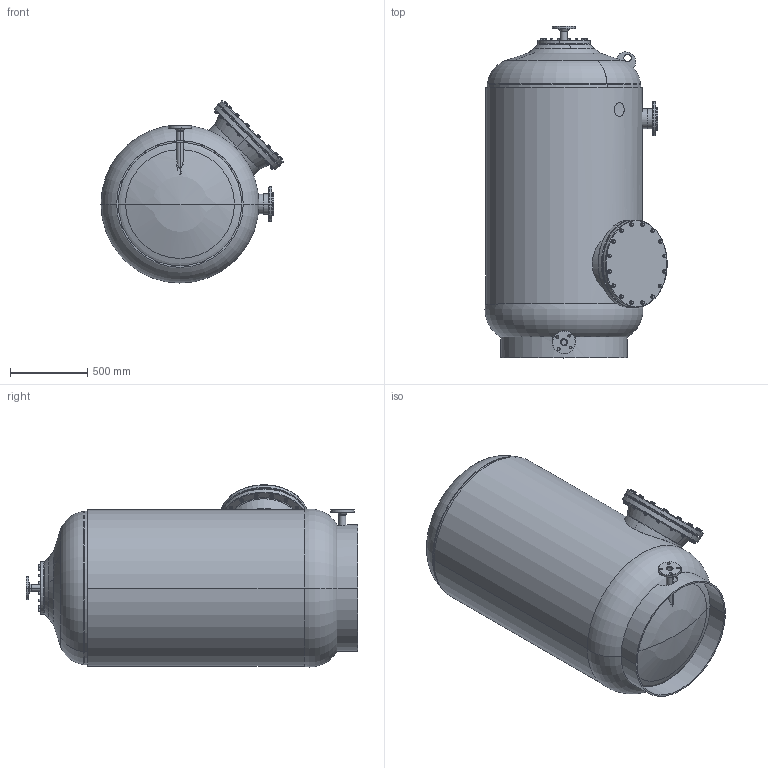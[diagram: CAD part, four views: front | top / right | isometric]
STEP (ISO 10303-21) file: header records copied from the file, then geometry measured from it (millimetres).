
FILE_DESCRIPTION (( 'STEP AP214' ), '1' );
FILE_NAME ('adriatic100c.STEP', '2020-11-04T09:59:44', ( '' ), ( '' ), 'SwSTEP 2.0', 'SolidWorks 2019', '' );
FILE_SCHEMA (( 'AUTOMOTIVE_DESIGN' ));
Length unit declared in the file: millimetre
Products named in the file (1): adriatic100c
Bounding box: 1179.46 x 2150.14 x 1179.46 mm (x, y, z)
Volume: 78635331 mm3; surface area: 17367759.9 mm2
Topology: 84 solids, 84 shells, 1381 faces, 3070 edges, 1888 vertices
Faces by surface type: cone 467, cylinder 446, plane 398, torus 54, sphere 10, bspline 6
Entity records: 66009 total; most frequent: CARTESIAN_POINT 18896, DIRECTION 6723, ORIENTED_EDGE 6128, EDGE_CURVE 3064, AXIS2_PLACEMENT_3D 2903, VERTEX_POINT 1886, EDGE_LOOP 1682, CIRCLE 1527
